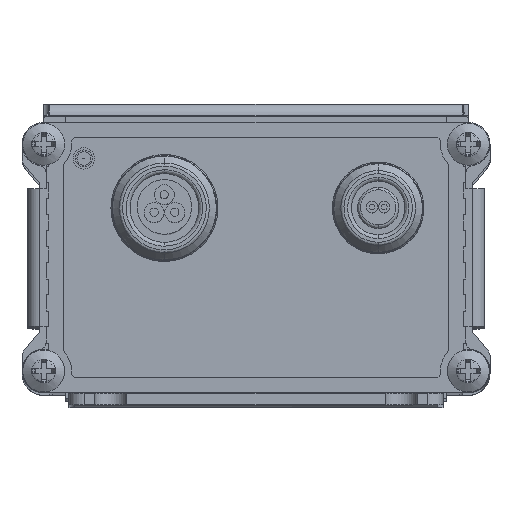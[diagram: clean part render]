
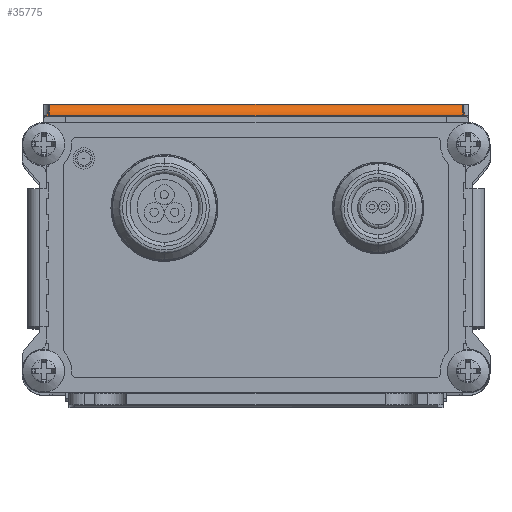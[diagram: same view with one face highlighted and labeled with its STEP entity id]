
A CAD part, top view. The second image highlights one B-rep face of the part: STEP entity #35775.
In plain terms, the highlighted cylindrical face has radius 1.6 mm (diameter 3.2 mm), a partial arc.
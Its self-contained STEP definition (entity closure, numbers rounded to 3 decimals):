
#1325 = CARTESIAN_POINT ( 'NONE',  ( -27.094, 19.753, 99.401 ) ) ;
#1424 = CARTESIAN_POINT ( 'NONE',  ( 27.173, 19.268, 99.818 ) ) ;
#1606 = CYLINDRICAL_SURFACE ( 'NONE', #14114, 1.6 ) ;
#1631 = CARTESIAN_POINT ( 'NONE',  ( 27.102, 19.448, 99.707 ) ) ;
#2058 = B_SPLINE_CURVE_WITH_KNOTS ( 'NONE', 3,
 ( #13814, #26774, #36678, #39663, #17446, #39882, #30341, #1325, #24961, #27872, #15180, #38224, #5686, #41022, #15816, #11976 ),
 .UNSPECIFIED., .F., .F.,
 ( 4, 2, 2, 2, 2, 2, 2, 4 ),
 ( 0., 0., 0.001, 0.001, 0.001, 0.002, 0.002, 0.003 ),
 .UNSPECIFIED. ) ;
#3545 = CARTESIAN_POINT ( 'NONE',  ( 27.14, 20.1, 98.4 ) ) ;
#3776 = CARTESIAN_POINT ( 'NONE',  ( 27.518, 18.5, 100. ) ) ;
#3997 = CARTESIAN_POINT ( 'NONE',  ( 27.14, 20.1, 98.4 ) ) ;
#4127 = B_SPLINE_CURVE_WITH_KNOTS ( 'NONE', 3,
 ( #3776, #29598, #4624, #1424, #1631, #33199, #7991, #7595, #14534, #13896, #39744, #3997 ),
 .UNSPECIFIED., .F., .F.,
 ( 4, 2, 2, 2, 2, 4 ),
 ( 0., 0.001, 0.001, 0.002, 0.002, 0.003 ),
 .UNSPECIFIED. ) ;
#4624 = CARTESIAN_POINT ( 'NONE',  ( 27.33, 18.894, 99.964 ) ) ;
#5686 = CARTESIAN_POINT ( 'NONE',  ( -27.312, 18.876, 99.958 ) ) ;
#6049 = DIRECTION ( 'NONE',  ( -1., 0., 0. ) ) ;
#6368 = EDGE_CURVE ( 'NONE', #22553, #36531, #2058, .T. ) ;
#7019 = DIRECTION ( 'NONE',  ( 1., 0., 0. ) ) ;
#7506 = VERTEX_POINT ( 'NONE', #34993 ) ;
#7595 = CARTESIAN_POINT ( 'NONE',  ( 27.042, 19.876, 99.224 ) ) ;
#7991 = CARTESIAN_POINT ( 'NONE',  ( 27.047, 19.752, 99.402 ) ) ;
#9206 = CARTESIAN_POINT ( 'NONE',  ( 55.072, 20.1, 98.4 ) ) ;
#11976 = CARTESIAN_POINT ( 'NONE',  ( -27.518, 18.5, 100. ) ) ;
#13311 = EDGE_CURVE ( 'NONE', #34505, #22553, #31842, .T. ) ;
#13814 = CARTESIAN_POINT ( 'NONE',  ( -27.14, 20.1, 98.4 ) ) ;
#13896 = CARTESIAN_POINT ( 'NONE',  ( 27.067, 20.057, 98.829 ) ) ;
#14114 = AXIS2_PLACEMENT_3D ( 'NONE', #40355, #24309, #37163 ) ;
#14493 = CARTESIAN_POINT ( 'NONE',  ( -27.518, 18.5, 100. ) ) ;
#14534 = CARTESIAN_POINT ( 'NONE',  ( 27.045, 19.929, 99.128 ) ) ;
#15180 = CARTESIAN_POINT ( 'NONE',  ( -27.176, 19.264, 99.821 ) ) ;
#15816 = CARTESIAN_POINT ( 'NONE',  ( -27.456, 18.59, 100. ) ) ;
#16036 = EDGE_CURVE ( 'NONE', #7506, #34505, #4127, .T. ) ;
#16531 = CARTESIAN_POINT ( 'NONE',  ( 0., 18.5, 100. ) ) ;
#17446 = CARTESIAN_POINT ( 'NONE',  ( -27.093, 20.013, 98.93 ) ) ;
#17926 = EDGE_LOOP ( 'NONE', ( #30275, #32686, #30469, #32290 ) ) ;
#19994 = VECTOR ( 'NONE', #6049, 1000. ) ;
#22553 = VERTEX_POINT ( 'NONE', #40694 ) ;
#23876 = FACE_OUTER_BOUND ( 'NONE', #17926, .T. ) ;
#24309 = DIRECTION ( 'NONE',  ( -1., 0., 0. ) ) ;
#24961 = CARTESIAN_POINT ( 'NONE',  ( -27.101, 19.682, 99.484 ) ) ;
#25450 = LINE ( 'NONE', #16531, #36947 ) ;
#26774 = CARTESIAN_POINT ( 'NONE',  ( -27.127, 20.1, 98.508 ) ) ;
#27872 = CARTESIAN_POINT ( 'NONE',  ( -27.135, 19.45, 99.705 ) ) ;
#29299 = EDGE_CURVE ( 'NONE', #36531, #7506, #25450, .T. ) ;
#29598 = CARTESIAN_POINT ( 'NONE',  ( 27.421, 18.696, 100. ) ) ;
#30275 = ORIENTED_EDGE ( 'NONE', *, *, #6368, .T. ) ;
#30341 = CARTESIAN_POINT ( 'NONE',  ( -27.087, 19.876, 99.223 ) ) ;
#30469 = ORIENTED_EDGE ( 'NONE', *, *, #16036, .T. ) ;
#31842 = LINE ( 'NONE', #9206, #19994 ) ;
#32290 = ORIENTED_EDGE ( 'NONE', *, *, #13311, .T. ) ;
#32686 = ORIENTED_EDGE ( 'NONE', *, *, #29299, .T. ) ;
#33199 = CARTESIAN_POINT ( 'NONE',  ( 27.056, 19.681, 99.485 ) ) ;
#34505 = VERTEX_POINT ( 'NONE', #3545 ) ;
#34993 = CARTESIAN_POINT ( 'NONE',  ( 27.518, 18.5, 100. ) ) ;
#35775 = ADVANCED_FACE ( 'NONE', ( #23876 ), #1606, .T. ) ;
#36531 = VERTEX_POINT ( 'NONE', #14493 ) ;
#36678 = CARTESIAN_POINT ( 'NONE',  ( -27.116, 20.089, 98.615 ) ) ;
#36947 = VECTOR ( 'NONE', #7019, 1000. ) ;
#37163 = DIRECTION ( 'NONE',  ( 0., 0., 1. ) ) ;
#38224 = CARTESIAN_POINT ( 'NONE',  ( -27.273, 18.976, 99.931 ) ) ;
#39663 = CARTESIAN_POINT ( 'NONE',  ( -27.099, 20.046, 98.825 ) ) ;
#39744 = CARTESIAN_POINT ( 'NONE',  ( 27.098, 20.1, 98.615 ) ) ;
#39882 = CARTESIAN_POINT ( 'NONE',  ( -27.087, 19.929, 99.129 ) ) ;
#40355 = CARTESIAN_POINT ( 'NONE',  ( 55.072, 18.5, 98.4 ) ) ;
#40694 = CARTESIAN_POINT ( 'NONE',  ( -27.14, 20.1, 98.4 ) ) ;
#41022 = CARTESIAN_POINT ( 'NONE',  ( -27.404, 18.684, 99.992 ) ) ;
